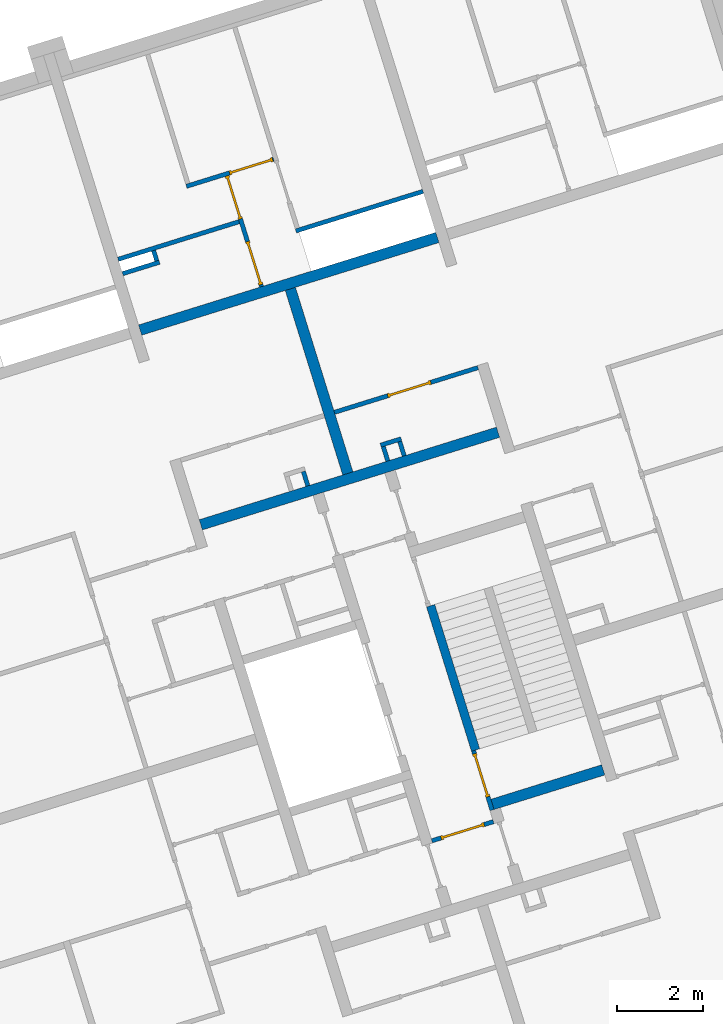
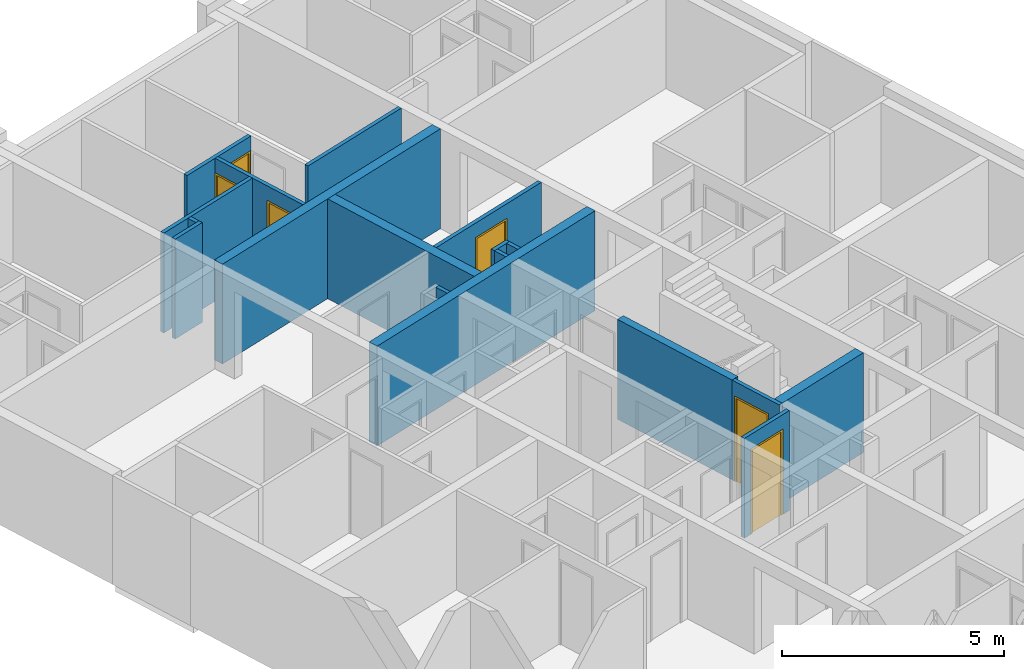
# One storey, part 7 of 12: 18 walls, 6 doors, 8 openings.
"""IFC4 building model written with IfcOpenShell, lengths in metres."""

from ifc_helpers import new_model, entity, si_unit, converted_unit, direction, frame, origin, place, context, subcontext, project, spatial, indexed_curve, outline, extrude, polygons, source, transform, mapped, material, constituent, constituent_set, type_object, type_shapes, element, fill, save


model = new_model("IFC4")

# Units and contexts
model_context = context("Model", 3, precision=1e-05, world=origin(), true_north=direction((6.12323399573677e-17, 1.0)))
body_context = subcontext(model_context, "Body", "Model", "MODEL_VIEW")
ifc_project = project(units=[si_unit("LENGTHUNIT", "METRE"), si_unit("AREAUNIT", "SQUARE_METRE"), si_unit("VOLUMEUNIT", "CUBIC_METRE"), converted_unit("PLANEANGLEUNIT", "DEGREE", entity("IfcPlaneAngleMeasure", 0.0174532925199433), si_unit("PLANEANGLEUNIT", "RADIAN"), dimensions=[0, 0, 0, 0, 0, 0, 0])], contexts=[model_context])

# Site, building, storey
site_placement = place(None, frame((13.1347999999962, 11.9886000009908, 0.0), z_axis=(0.0, 0.0, 1.0), x_axis=(0.954770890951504, 0.297342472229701, 0.0)))
site = spatial("IfcSite", under=ifc_project, at=site_placement, Name="Schiehaven", CompositionType="ELEMENT")
building_placement = place(site_placement, origin())
building = spatial("IfcBuilding", under=site, at=building_placement, Name="VORM huis", CompositionType="ELEMENT")
storey_placement = place(building_placement, frame((0.0, 0.0, 3.9)))
storey = spatial("IfcBuildingStorey", under=building, at=storey_placement, Name="01 eerste verdieping", CompositionType="ELEMENT", Elevation=3.9)

# Walls
ifc_material_1 = material(Name="beton_gewapend_ihw", Category="Miscellaneous")
wall_type_1 = type_object("IfcWallType", Name="Basic Wall:28_WA_skelet_wand 250mm_gen", PredefinedType="STANDARD")
wall_1_placement = place(storey_placement, frame((12.6250000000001, 22.2, 0.0)))
element("IfcWall", 1, at=wall_1_placement, inside=storey, type_object=wall_type_1, material=ifc_material_1, Name="Constructieve wand", ObjectType="Wand", PredefinedType="NOTDEFINED", context=body_context, shape_type="SweptSolid", body=[
    extrude(outline(indexed_curve([(7.25000000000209, 0.125000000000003), (-4.73312500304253e-16, 0.125000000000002), (4.73312500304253e-16, -0.125000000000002), (7.25000000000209, -0.125), (7.25000000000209, 0.125000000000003)], self_intersect=False)), origin(), (0.0, 0.0, 1.0), 2.75),
])
ifc_material_2 = material(Name="beton_gewapend_prefab-element", Category="Miscellaneous")
wall_type_2 = type_object("IfcWallType", Name="Basic Wall:28_WA_skelet_wand 200mm_gen", PredefinedType="STANDARD")
wall_2_placement = place(storey_placement, frame((17.1750000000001, 15.29, 0.0), z_axis=(0.0, 0.0, 1.0), x_axis=(0.0, 1.0, 0.0)))
element("IfcWall", 2, at=wall_2_placement, inside=storey, type_object=wall_type_2, material=ifc_material_2, Name="Constructieve wand", ObjectType="Wand", PredefinedType="NOTDEFINED", context=body_context, shape_type="SweptSolid", body=[
    extrude(outline(indexed_curve([(3.52, 0.0999999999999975), (-5.13023966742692e-16, 0.0999999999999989), (5.13023966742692e-16, -0.0999999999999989), (3.52, -0.1), (3.52, 0.0999999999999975)], self_intersect=False)), origin(), (0.0, 0.0, 1.0), 2.75),
])
ifc_material_3 = material(Name="ntb_ntb_ntb", Category="Miscellaneous")
wall_type_3 = type_object("IfcWallType", Name="Basic Wall:22_WA_afbouw_binnenwand 250mm_gen", PredefinedType="STANDARD")
wall_3_placement = place(storey_placement, frame((16.2500000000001, 22.325, 0.0), z_axis=(0.0, 0.0, 1.0), x_axis=(0.0, 1.0, 0.0)))
element("IfcWall", 3, at=wall_3_placement, inside=storey, type_object=wall_type_3, material=ifc_material_3, Name="Binnenwand", ObjectType="Wand", PredefinedType="NOTDEFINED", context=body_context, shape_type="SweptSolid", body=[
    extrude(outline(indexed_curve([(4.49999999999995, 0.124999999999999), (-8.33495326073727e-16, 0.125), (8.33495326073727e-16, -0.125), (4.49999999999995, -0.125), (4.49999999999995, 0.124999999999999)], self_intersect=False)), origin(), (0.0, 0.0, 1.0), 2.75),
])
wall_4_placement = place(storey_placement, frame((19.8750000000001, 13.965, 0.0), z_axis=(0.0, 0.0, 1.0), x_axis=(-1.0, 0.0, 0.0)))
element("IfcWall", 4, at=wall_4_placement, inside=storey, type_object=wall_type_3, material=ifc_material_3, Name="Binnenwand", ObjectType="Wand", PredefinedType="NOTDEFINED", context=body_context, shape_type="SweptSolid", body=[
    extrude(outline(indexed_curve([(2.70000000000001, 0.124999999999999), (-3.69797181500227e-16, 0.125), (3.69797181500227e-16, -0.125), (2.70000000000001, -0.125), (2.70000000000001, 0.124999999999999)], self_intersect=False)), origin(), (0.0, 0.0, 1.0), 2.75),
])
wall_5_placement = place(storey_placement, frame((12.6250000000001, 26.95, 0.0)))
element("IfcWall", 5, at=wall_5_placement, inside=storey, type_object=wall_type_3, material=ifc_material_3, Name="Binnenwand", ObjectType="Wand", PredefinedType="NOTDEFINED", context=body_context, shape_type="SweptSolid", body=[
    extrude(outline(indexed_curve([(7.24999999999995, 0.124999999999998), (-7.57222733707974e-16, 0.125000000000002), (7.57222733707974e-16, -0.125000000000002), (7.24999999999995, -0.125000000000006), (7.24999999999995, 0.124999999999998)], self_intersect=False)), origin(), (0.0, 0.0, 1.0), 2.75),
])

# Wall, opening, door
wall_type_4 = type_object("IfcWallType", Name="Basic Wall:22_WA_afbouw_binnenwand 100mm_gen", PredefinedType="STANDARD")
wall_6_placement = place(storey_placement, frame((17.1250000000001, 13.84, 0.0), z_axis=(0.0, 0.0, 1.0), x_axis=(0.0, 1.0, 0.0)))
wall_6 = element("IfcWall", 6, at=wall_6_placement, inside=storey, type_object=wall_type_4, material=ifc_material_3, Name="Binnenwand", ObjectType="Wand", PredefinedType="NOTDEFINED", context=body_context, shape_type="Tessellation", body=[
    polygons([(1.44999999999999, -0.0500000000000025, -5.41433564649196e-16), (1.44999999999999, -0.0500000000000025, 2.75), (0.249999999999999, -0.0500000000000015, 2.75), (0.0, -0.0500000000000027, 2.75), (0.0, -0.0500000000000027, -5.41433564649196e-16), (0.249999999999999, -0.0500000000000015, 0.0), (0.324999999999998, -0.0500000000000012, -5.41433564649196e-16), (0.324999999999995, -0.0500000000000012, 2.34999999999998), (1.375, -0.0500000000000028, 2.34999999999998), (1.375, -0.0500000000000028, -5.41433564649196e-16), (1.44999999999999, 0.0499999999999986, 2.75), (1.44999999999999, 0.0499999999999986, -5.41433564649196e-16), (1.37499999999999, 0.0499999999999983, -5.41433564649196e-16), (1.37499999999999, 0.0500000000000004, 2.34999999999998), (0.324999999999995, 0.0500000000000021, 2.34999999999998), (0.324999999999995, 0.0499999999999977, -5.41433564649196e-16), (-2.16573425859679e-15, 0.0500000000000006, -5.41433564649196e-16), (-2.16573425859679e-15, 0.0500000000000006, 2.75)], [[[1, 2, 3, 4, 5, 6, 7, 8, 9, 10]], [[11, 12, 13, 14, 15, 16, 17, 18]], [[5, 17, 16, 7, 6]], [[2, 1, 12, 11]], [[4, 3, 2, 11, 18]], [[15, 8, 7, 16]], [[9, 14, 13, 10]], [[8, 15, 14, 9]], [[5, 4, 18, 17]], [[12, 1, 10, 13]]], closed=True),
])
opening_1_placement = place(wall_6_placement, frame((1.375, 0.0499999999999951, 0.0)))
opening_1 = element("IfcOpeningElement", 7, at=opening_1_placement, cuts=wall_6, Name="Vluchtdeur", PredefinedType="OPENING", context=body_context, shape_type="SweptSolid", body=[
    extrude(outline(indexed_curve([(2.34999999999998, 1.05), (0.0, 1.05), (0.0, 1.35358391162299e-15), (2.34999999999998, 1.35358391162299e-15), (2.34999999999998, 1.05)], self_intersect=False)), frame((0.0, 0.0, 0.0), z_axis=(0.0, -1.0, 0.0), x_axis=(0.0, 0.0, 1.0)), (0.0, 0.0, 1.0), 0.1),
])
ifc_material_4 = material(Name="PD_a_binnenwandopeningen", Category="Miscellaneous")
ifc_constituent_1 = constituent(ifc_material_4, Name="PD_a_binnenwandopeningen", Category="Miscellaneous")
ifc_material_5 = material(Name="metaal_aluminium_ntb", Category="Miscellaneous")
ifc_constituent_2 = constituent(ifc_material_5, Name="metaal_aluminium_ntb", Category="Miscellaneous")
ifc_constituent_set_1 = constituent_set(constituents=[ifc_constituent_1, ifc_constituent_2])
door_type_1 = type_object("IfcDoorType", Name="32_DO_binnendeur enkel:binnendeur zelfsluitend 30min", OperationType="NOTDEFINED", PredefinedType="DOOR")
shared_shape_1 = source(origin(), body_context, "Body", "SweptSolid", [
    extrude(outline(indexed_curve([(-1.16249999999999, -0.525000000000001), (1.18749999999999, -0.525), (1.18749999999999, 0.525), (-1.16249999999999, 0.525), (-1.16249999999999, 0.475), (1.13749999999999, 0.475), (1.13749999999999, -0.475), (-1.16249999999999, -0.475), (-1.16249999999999, -0.525000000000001)], self_intersect=False)), frame((0.525000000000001, 0.0, 1.16249999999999), z_axis=(0.0, 1.0, 0.0), x_axis=(0.0, 0.0, 1.0)), (0.0, 0.0, 1.0), 0.1),
    extrude(outline(indexed_curve([(-0.025, -0.475), (0.025, -0.475), (0.025, 0.475), (-0.025, 0.475), (-0.025, -0.475)], self_intersect=False)), frame((0.525000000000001, 0.0499999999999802, 0.0), z_axis=(0.0, 0.0, 1.0), x_axis=(0.0, 1.0, 0.0)), (0.0, 0.0, 1.0), 2.29999999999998),
])
type_shapes(door_type_1, [shared_shape_1])
door_1_placement = place(opening_1_placement, frame((0.0, 0.0, 0.0), z_axis=(0.0, 0.0, 1.0), x_axis=(-1.0, 0.0, 0.0)))
door_1 = element("IfcDoor", 8, at=door_1_placement, inside=storey, type_object=door_type_1, material=ifc_constituent_set_1, Name="Vluchtdeur", ObjectType="Deur", OperationType="NOTDEFINED", OverallHeight=2.34999999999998, OverallWidth=1.05, PredefinedType="DOOR", context=body_context, shape_type="MappedRepresentation", body=[
    mapped(shared_shape_1, transform((0.0, 0.0, 0.0), scale=1.0)),
])
fill(opening_1, door_1)

wall_7_placement = place(storey_placement, frame((17.0750000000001, 13.575, 0.0), z_axis=(0.0, 0.0, 1.0), x_axis=(-1.0, 0.0, 0.0)))
wall_7 = element("IfcWall", 9, at=wall_7_placement, inside=storey, type_object=wall_type_4, material=ifc_material_3, Name="Binnenwand", ObjectType="Wand", PredefinedType="NOTDEFINED", context=body_context, shape_type="Tessellation", body=[
    polygons([(1.50000000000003, -0.0499999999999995, 2.75), (-1.35141276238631e-15, -0.0499999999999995, 2.75), (-1.35141276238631e-15, -0.0499999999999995, -5.41433564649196e-16), (0.224999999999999, -0.0499999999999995, -5.41433564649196e-16), (0.224999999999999, -0.0499999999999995, 2.34999999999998), (1.275, -0.0499999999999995, 2.34999999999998), (1.275, -0.0499999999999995, -5.41433564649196e-16), (1.50000000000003, -0.0499999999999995, -5.41433564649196e-16), (-2.16804959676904e-15, 0.0500000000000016, 2.75), (1.50000000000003, 0.0499999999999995, 2.75), (1.50000000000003, 0.0499999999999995, 2.34999999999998), (1.50000000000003, 0.0499999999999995, -5.41433564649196e-16), (1.275, 0.0499999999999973, -5.41433564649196e-16), (1.275, 0.0499999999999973, 2.34999999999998), (0.224999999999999, 0.0500000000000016, 2.34999999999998), (0.224999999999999, 0.0500000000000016, -5.41433564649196e-16), (-2.16804959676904e-15, 0.0500000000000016, -5.41433564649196e-16), (-2.31533817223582e-18, 0.0499999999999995, 2.34999999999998)], [[[1, 2, 3, 4, 5, 6, 7, 8]], [[9, 10, 11, 12, 13, 14, 15, 16, 17, 18]], [[3, 17, 16, 4]], [[2, 1, 10, 9]], [[15, 5, 4, 16]], [[5, 15, 14, 6]], [[6, 14, 13, 7]], [[3, 2, 9, 18, 17]], [[1, 8, 12, 11, 10]], [[12, 8, 7, 13]]], closed=True),
])
opening_2_placement = place(wall_7_placement, frame((1.275, 0.0499999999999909, 0.0)))
opening_2 = element("IfcOpeningElement", 10, at=opening_2_placement, cuts=wall_7, Name="Vluchtdeur", PredefinedType="OPENING", context=body_context, shape_type="SweptSolid", body=[
    extrude(outline(indexed_curve([(2.34999999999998, 1.35358391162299e-15), (2.34999999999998, 1.05), (0.0, 1.05), (0.0, 1.35358391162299e-15), (2.34999999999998, 1.35358391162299e-15)], self_intersect=False)), frame((0.0, 0.0, 0.0), z_axis=(0.0, -1.0, 0.0), x_axis=(0.0, 0.0, 1.0)), (0.0, 0.0, 1.0), 0.1),
])
ifc_constituent_3 = constituent(ifc_material_4, Name="PD_a_binnenwandopeningen", Category="Miscellaneous")
ifc_constituent_4 = constituent(ifc_material_5, Name="metaal_aluminium_ntb", Category="Miscellaneous")
ifc_constituent_set_2 = constituent_set(constituents=[ifc_constituent_3, ifc_constituent_4])
shared_shape_2 = source(origin(), body_context, "Body", "SweptSolid", [
    extrude(outline(indexed_curve([(0.475, -1.16249999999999), (0.525, -1.16249999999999), (0.525, 1.18749999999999), (-0.525, 1.18749999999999), (-0.525, -1.16249999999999), (-0.475, -1.16249999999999), (-0.475, 1.13749999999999), (0.475, 1.13749999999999), (0.475, -1.16249999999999)], self_intersect=False)), frame((0.525000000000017, 0.100000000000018, 1.16249999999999), z_axis=(0.0, -1.0, 0.0), x_axis=(1.0, 0.0, 0.0)), (0.0, 0.0, 1.0), 0.1),
    extrude(outline(indexed_curve([(-0.475, -0.025), (0.475, -0.025), (0.475, 0.025), (-0.475, 0.025), (-0.475, -0.025)], self_intersect=False)), frame((0.525000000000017, 0.0499999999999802, 0.0)), (0.0, 0.0, 1.0), 2.29999999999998),
])
door_2_placement = place(opening_2_placement, frame((0.0, 0.0, 0.0), z_axis=(0.0, 0.0, 1.0), x_axis=(-1.0, 0.0, 0.0)))
door_2 = element("IfcDoor", 11, at=door_2_placement, inside=storey, type_object=door_type_1, material=ifc_constituent_set_2, Name="Vluchtdeur", ObjectType="Deur", OperationType="NOTDEFINED", OverallHeight=2.34999999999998, OverallWidth=1.05, PredefinedType="DOOR", context=body_context, shape_type="MappedRepresentation", body=[
    mapped(shared_shape_2, transform((0.0, 0.0, 0.0), scale=1.0)),
])
fill(opening_2, door_2)

# Wall, openings, door
wall_8_placement = place(storey_placement, frame((16.7750000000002, 29.825, 0.0), z_axis=(0.0, 0.0, 1.0), x_axis=(-1.0, 0.0, 0.0)))
wall_8 = element("IfcWall", 12, at=wall_8_placement, inside=storey, type_object=wall_type_4, material=ifc_material_3, Name="Binnenwand", ObjectType="Wand", PredefinedType="NOTDEFINED", context=body_context, shape_type="Tessellation", body=[
    polygons([(2.12499999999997, -0.0500000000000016, 2.75), (2.02499999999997, -0.0499999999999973, 2.75), (-3.59716006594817e-15, -0.0499999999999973, 2.75), (-3.59716006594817e-15, -0.0499999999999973, 0.0), (0.0250000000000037, -0.0499999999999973, 0.0), (0.0250000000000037, -0.0499999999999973, 2.34999999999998), (1.075, -0.049999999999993, 2.34999999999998), (1.075, -0.049999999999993, 0.0), (2.02499999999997, -0.0499999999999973, 5.41433564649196e-16), (2.12499999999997, -0.0500000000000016, 0.0), (-1.39582481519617e-15, 0.0499999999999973, 2.75), (1.09999999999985, 0.0500000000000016, 2.75), (1.19999999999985, 0.0500000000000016, 2.75), (2.12499999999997, 0.0499999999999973, 2.75), (2.12499999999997, 0.0499999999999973, 0.0), (1.075, 0.0500000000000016, 0.0), (1.075, 0.0500000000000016, 2.34999999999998), (0.0250000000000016, 0.050000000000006, 2.34999999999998), (0.0250000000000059, 0.0499999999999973, 0.0), (-1.39582481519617e-15, 0.0499999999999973, 0.0), (-1.39582481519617e-15, 0.0500000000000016, 2.34999999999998)], [[[1, 2, 3, 4, 5, 6, 7, 8, 9, 10]], [[11, 12, 13, 14, 15, 16, 17, 18, 19, 20, 21]], [[4, 20, 19, 5]], [[3, 2, 1, 14, 13, 12, 11]], [[4, 3, 11, 21, 20]], [[18, 6, 5, 19]], [[7, 17, 16, 8]], [[6, 18, 17, 7]], [[1, 10, 15, 14]], [[15, 10, 9, 8, 16]]], closed=True),
])
opening_3_placement = place(wall_8_placement, origin())
element("IfcOpeningElement", 13, at=opening_3_placement, cuts=wall_8, Name="Binnendeur", PredefinedType="OPENING", context=body_context, shape_type="SweptSolid", body=[
    extrude(outline(indexed_curve([(-0.0499999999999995, -1.17499999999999), (0.0500000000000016, -1.17499999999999), (0.0500000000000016, 1.17499999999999), (-0.0499999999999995, 1.17499999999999), (-0.0499999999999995, -1.17499999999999)], self_intersect=False)), frame((1.14999999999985, 0.049999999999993, 1.17499999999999), z_axis=(0.0, 1.0, 0.0), x_axis=(-1.0, 0.0, 0.0)), (0.0, 0.0, 1.0), 1.05),
])
opening_4_placement = place(wall_8_placement, frame((0.0250000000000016, -0.050000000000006, 0.0)))
opening_4 = element("IfcOpeningElement", 14, at=opening_4_placement, cuts=wall_8, Name="Binnendeur", PredefinedType="OPENING", context=body_context, shape_type="SweptSolid", body=[
    extrude(outline(indexed_curve([(2.34999999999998, 1.35358391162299e-15), (2.34999999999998, 1.05), (0.0, 1.05), (0.0, 1.35358391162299e-15), (2.34999999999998, 1.35358391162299e-15)], self_intersect=False)), frame((0.0, 0.0, 0.0), z_axis=(0.0, 1.0, 0.0), x_axis=(0.0, 0.0, 1.0)), (0.0, 0.0, 1.0), 0.1),
])
ifc_constituent_5 = constituent(ifc_material_4, Name="PD_a_binnenwandopeningen", Category="Miscellaneous")
ifc_constituent_6 = constituent(ifc_material_5, Name="metaal_aluminium_ntb", Category="Miscellaneous")
ifc_constituent_set_3 = constituent_set(constituents=[ifc_constituent_5, ifc_constituent_6])
door_type_2 = type_object("IfcDoorType", Name="32_DO_binnendeur enkel:binnendeur", OperationType="REVOLVING", PredefinedType="DOOR")
shared_shape_3 = source(origin(), body_context, "Body", "SweptSolid", [
    extrude(outline(indexed_curve([(0.475, -1.16249999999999), (0.525, -1.16249999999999), (0.525, 1.18749999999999), (-0.525, 1.18749999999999), (-0.525, -1.16249999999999), (-0.475, -1.16249999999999), (-0.475, 1.13749999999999), (0.475, 1.13749999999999), (0.475, -1.16249999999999)], self_intersect=False)), frame((0.525000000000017, 0.100000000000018, 1.16249999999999), z_axis=(0.0, -1.0, 0.0), x_axis=(1.0, 0.0, 0.0)), (0.0, 0.0, 1.0), 0.1),
    extrude(outline(indexed_curve([(-0.475, -0.025), (0.475, -0.025), (0.475, 0.025), (-0.475, 0.025), (-0.475, -0.025)], self_intersect=False)), frame((0.525000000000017, 0.0499999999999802, 0.0)), (0.0, 0.0, 1.0), 2.29999999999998),
])
door_3_placement = place(opening_4_placement, origin())
door_3 = element("IfcDoor", 15, at=door_3_placement, inside=storey, type_object=door_type_2, material=ifc_constituent_set_3, Name="Binnendeur", ObjectType="Deur", OperationType="REVOLVING", OverallHeight=2.34999999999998, OverallWidth=1.05, PredefinedType="DOOR", context=body_context, shape_type="MappedRepresentation", body=[
    mapped(shared_shape_3, transform((0.0, 0.0, 0.0), scale=1.0)),
])
fill(opening_4, door_3)

# Wall
wall_9_placement = place(storey_placement, frame((16.7750000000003, 28.075, 0.0)))
element("IfcWall", 16, at=wall_9_placement, inside=storey, type_object=wall_type_4, material=ifc_material_3, Name="Binnenwand", ObjectType="Wand", PredefinedType="NOTDEFINED", context=body_context, shape_type="SweptSolid", body=[
    extrude(outline(indexed_curve([(3.1000000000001, 0.0500000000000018), (-9.11813735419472e-16, 0.0500000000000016), (9.11813735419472e-16, -0.0500000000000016), (3.1000000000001, -0.0500000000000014), (3.1000000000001, 0.0500000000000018)], self_intersect=False)), origin(), (0.0, 0.0, 1.0), 2.75),
])

# Wall, openings, doors
wall_10_placement = place(storey_placement, frame((15.6250000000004, 29.7749999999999, 0.0), z_axis=(0.0, 0.0, 1.0), x_axis=(0.0, -1.0, 0.0)))
wall_10 = element("IfcWall", 17, at=wall_10_placement, inside=storey, type_object=wall_type_4, material=ifc_material_3, Name="Binnenwand", ObjectType="Wand", PredefinedType="NOTDEFINED", context=body_context, shape_type="Tessellation", body=[
    polygons([(2.69999999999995, -0.0500000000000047, 2.75), (1.15000000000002, -0.050000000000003, 2.75), (1.05000000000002, -0.0500000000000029, 2.75), (4.33146851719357e-15, -0.0500000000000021, 2.75), (4.33146851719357e-15, -0.0500000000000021, 2.34999999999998), (1.05, -0.0500000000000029, 2.34999999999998), (1.05, -0.0500000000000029, 0.0), (1.15000000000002, -0.050000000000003, 5.41433564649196e-16), (1.59999999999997, -0.0500000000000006, 0.0), (1.59999999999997, -0.0500000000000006, 2.34999999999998), (2.64999999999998, -0.0500000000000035, 2.34999999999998), (2.64999999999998, -0.0500000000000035, 0.0), (2.69999999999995, -0.0500000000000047, 0.0), (4.33146851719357e-15, 0.049999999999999, 2.75), (2.69999999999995, 0.0499999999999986, 2.75), (2.69999999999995, 0.0499999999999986, 0.0), (2.64999999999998, 0.0499999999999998, 0.0), (2.64999999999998, 0.0499999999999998, 2.34999999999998), (1.59999999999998, 0.0499999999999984, 2.34999999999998), (1.59999999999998, 0.0499999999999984, 0.0), (1.05000000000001, 0.0499999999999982, 0.0), (1.05, 0.0499999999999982, 2.34999999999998), (4.33146851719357e-15, 0.049999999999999, 2.34999999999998)], [[[1, 2, 3, 4, 5, 6, 7, 8, 9, 10, 11, 12, 13]], [[14, 15, 16, 17, 18, 19, 20, 21, 22, 23]], [[12, 17, 16, 13]], [[4, 3, 2, 1, 15, 14]], [[19, 18, 11, 10]], [[18, 17, 12, 11]], [[20, 19, 10, 9]], [[4, 14, 23, 5]], [[6, 22, 21, 7]], [[22, 6, 5, 23]], [[1, 13, 16, 15]], [[20, 9, 8, 7, 21]]], closed=True),
])
opening_5_placement = place(wall_10_placement, frame((1.59999999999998, -0.0499999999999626, 0.0)))
opening_5 = element("IfcOpeningElement", 18, at=opening_5_placement, cuts=wall_10, Name="Binnendeur", PredefinedType="OPENING", context=body_context, shape_type="SweptSolid", body=[
    extrude(outline(indexed_curve([(2.34999999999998, 0.0), (2.34999999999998, 1.05), (0.0, 1.05), (0.0, 0.0), (2.34999999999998, 0.0)], self_intersect=False)), frame((0.0, 0.0, 0.0), z_axis=(0.0, 1.0, 0.0), x_axis=(0.0, 0.0, 1.0)), (0.0, 0.0, 1.0), 0.1),
])
opening_6_placement = place(wall_10_placement, frame((29.7749999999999, -15.6250000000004, 0.0), z_axis=(0.0, 0.0, 1.0), x_axis=(0.0, 1.0, 0.0)))
element("IfcOpeningElement", 19, at=opening_6_placement, cuts=wall_10, Name="Binnendeur", PredefinedType="OPENING", context=body_context, shape_type="SweptSolid", body=[
    extrude(outline(indexed_curve([(-0.525000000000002, -1.17499999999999), (0.525000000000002, -1.17499999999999), (0.524999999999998, 1.17499999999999), (-0.525000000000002, 1.17499999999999), (-0.525000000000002, -1.17499999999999)], self_intersect=False)), frame((14.0510000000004, 27.6499999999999, 1.17499999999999), z_axis=(1.0, 0.0, 0.0), x_axis=(0.0, -1.0, 0.0)), (0.0, 0.0, 1.0), 3.048),
])
opening_7_placement = place(wall_10_placement, frame((0.0, -0.0499999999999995, 0.0)))
opening_7 = element("IfcOpeningElement", 20, at=opening_7_placement, cuts=wall_10, Name="Binnendeur", PredefinedType="OPENING", context=body_context, shape_type="SweptSolid", body=[
    extrude(outline(indexed_curve([(2.34999999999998, 0.0), (2.34999999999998, 1.05), (0.0, 1.05), (0.0, 0.0), (2.34999999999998, 0.0)], self_intersect=False)), frame((0.0, 0.0, 0.0), z_axis=(0.0, 1.0, 0.0), x_axis=(0.0, 0.0, 1.0)), (0.0, 0.0, 1.0), 0.1),
])
ifc_constituent_7 = constituent(ifc_material_4, Name="PD_a_binnenwandopeningen", Category="Miscellaneous")
ifc_constituent_8 = constituent(ifc_material_5, Name="metaal_aluminium_ntb", Category="Miscellaneous")
ifc_constituent_set_4 = constituent_set(constituents=[ifc_constituent_7, ifc_constituent_8])
door_4_placement = place(opening_5_placement, origin())
door_4 = element("IfcDoor", 21, at=door_4_placement, inside=storey, type_object=door_type_2, material=ifc_constituent_set_4, Name="Binnendeur", ObjectType="Deur", OperationType="REVOLVING", OverallHeight=2.34999999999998, OverallWidth=1.05, PredefinedType="DOOR", context=body_context, shape_type="MappedRepresentation", body=[
    mapped(shared_shape_3, transform((0.0, 0.0, 0.0), scale=1.0)),
])
fill(opening_5, door_4)
ifc_constituent_9 = constituent(ifc_material_4, Name="PD_a_binnenwandopeningen", Category="Miscellaneous")
ifc_constituent_10 = constituent(ifc_material_5, Name="metaal_aluminium_ntb", Category="Miscellaneous")
ifc_constituent_set_5 = constituent_set(constituents=[ifc_constituent_9, ifc_constituent_10])
door_5_placement = place(opening_7_placement, origin())
door_5 = element("IfcDoor", 22, at=door_5_placement, inside=storey, type_object=door_type_2, material=ifc_constituent_set_5, Name="Binnendeur", ObjectType="Deur", OperationType="REVOLVING", OverallHeight=2.34999999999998, OverallWidth=1.05, PredefinedType="DOOR", context=body_context, shape_type="MappedRepresentation", body=[
    mapped(shared_shape_3, transform((0.0, 0.0, 0.0), scale=1.0)),
])
fill(opening_7, door_5)

# Walls
wall_11_placement = place(storey_placement, frame((15.5750000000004, 28.6749999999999, 0.0), z_axis=(0.0, 0.0, 1.0), x_axis=(-1.0, 0.0, 0.0)))
element("IfcWall", 23, at=wall_11_placement, inside=storey, type_object=wall_type_4, material=ifc_material_3, Name="Binnenwand", ObjectType="Wand", PredefinedType="NOTDEFINED", context=body_context, shape_type="SweptSolid", body=[
    extrude(outline(indexed_curve([(2.95000000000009, 0.0500000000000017), (-3.2308008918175e-15, 0.0500000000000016), (-1.10066762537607e-15, -0.0500000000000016), (2.95000000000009, -0.0500000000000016), (2.95000000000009, 0.0500000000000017)], self_intersect=False)), origin(), (0.0, 0.0, 1.0), 2.75),
])
wall_12_placement = place(storey_placement, frame((12.6250000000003, 28.3249999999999, 0.0)))
element("IfcWall", 24, at=wall_12_placement, inside=storey, type_object=wall_type_4, material=ifc_material_3, Name="Binnenwand", ObjectType="Wand", PredefinedType="NOTDEFINED", context=body_context, shape_type="SweptSolid", body=[
    extrude(outline(indexed_curve([(0.899999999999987, 0.0500000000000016), (-9.62371003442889e-16, 0.0500000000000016), (9.62371003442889e-16, -0.0500000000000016), (0.899999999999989, -0.0500000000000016), (0.899999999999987, 0.0500000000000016)], self_intersect=False)), origin(), (0.0, 0.0, 1.0), 2.75),
])
wall_13_placement = place(storey_placement, frame((13.4750000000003, 28.3749999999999, 0.0), z_axis=(0.0, 0.0, 1.0), x_axis=(0.0, 1.0, 0.0)))
element("IfcWall", 25, at=wall_13_placement, inside=storey, type_object=wall_type_4, material=ifc_material_3, Name="Binnenwand", ObjectType="Wand", PredefinedType="NOTDEFINED", context=body_context, shape_type="SweptSolid", body=[
    extrude(outline(indexed_curve([(0.250000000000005, 0.0500000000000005), (1.10066762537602e-15, 0.0499999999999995), (-1.10066762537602e-15, -0.0499999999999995), (0.250000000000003, -0.0499999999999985), (0.250000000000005, 0.0500000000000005)], self_intersect=False)), origin(), (0.0, 0.0, 1.0), 2.75),
])

# Wall, opening, door
wall_14_placement = place(storey_placement, frame((16.3750000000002, 23.775, 0.0)))
wall_14 = element("IfcWall", 26, at=wall_14_placement, inside=storey, type_object=wall_type_4, material=ifc_material_3, Name="Binnenwand", ObjectType="Wand", PredefinedType="NOTDEFINED", context=body_context, shape_type="Tessellation", body=[
    polygons([(3.50000000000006, -0.0499999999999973, -5.41433564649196e-16), (3.50000000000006, -0.0499999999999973, 2.75), (-5.94289439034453e-16, -0.0499999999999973, 2.75), (-5.94289439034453e-16, -0.0499999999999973, -5.41433564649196e-16), (1.29999999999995, -0.0499999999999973, -5.41433564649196e-16), (1.29999999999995, -0.0499999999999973, 2.34999999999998), (2.34999999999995, -0.0499999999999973, 2.34999999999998), (2.34999999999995, -0.0499999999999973, -5.41433564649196e-16), (3.50000000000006, 0.0500000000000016, 2.75), (3.50000000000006, 0.0500000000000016, -5.41433564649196e-16), (2.34999999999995, 0.0500000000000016, -5.41433564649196e-16), (2.34999999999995, 0.0500000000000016, 2.34999999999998), (1.29999999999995, 0.0500000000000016, 2.34999999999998), (1.29999999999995, 0.0500000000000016, -5.41433564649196e-16), (-1.25404562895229e-15, 0.0500000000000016, -5.41433564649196e-16), (-1.25404562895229e-15, 0.0500000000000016, 2.75)], [[[1, 2, 3, 4, 5, 6, 7, 8]], [[9, 10, 11, 12, 13, 14, 15, 16]], [[4, 15, 14, 5]], [[2, 1, 10, 9]], [[3, 2, 9, 16]], [[4, 3, 16, 15]], [[7, 12, 11, 8]], [[13, 6, 5, 14]], [[12, 7, 6, 13]], [[10, 1, 8, 11]]], closed=True),
])
opening_8_placement = place(wall_14_placement, frame((1.29999999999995, -0.050000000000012, 0.0)))
opening_8 = element("IfcOpeningElement", 27, at=opening_8_placement, cuts=wall_14, Name="Binnendeur", PredefinedType="OPENING", context=body_context, shape_type="SweptSolid", body=[
    extrude(outline(indexed_curve([(2.34999999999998, 1.05), (0.0, 1.05), (0.0, 1.35358391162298e-15), (2.34999999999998, 1.35358391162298e-15), (2.34999999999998, 1.05)], self_intersect=False)), frame((0.0, 0.0, 0.0), z_axis=(0.0, 1.0, 0.0), x_axis=(0.0, 0.0, 1.0)), (0.0, 0.0, 1.0), 0.1),
])
ifc_constituent_11 = constituent(ifc_material_4, Name="PD_a_binnenwandopeningen", Category="Miscellaneous")
ifc_constituent_12 = constituent(ifc_material_5, Name="metaal_aluminium_ntb", Category="Miscellaneous")
ifc_constituent_set_6 = constituent_set(constituents=[ifc_constituent_11, ifc_constituent_12])
shared_shape_4 = source(origin(), body_context, "Body", "SweptSolid", [
    extrude(outline(indexed_curve([(-1.16249999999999, -0.525000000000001), (1.18749999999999, -0.525), (1.18749999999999, 0.525), (-1.16249999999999, 0.525), (-1.16249999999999, 0.475), (1.13749999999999, 0.475), (1.13749999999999, -0.475), (-1.16249999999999, -0.475), (-1.16249999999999, -0.525000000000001)], self_intersect=False)), frame((0.525000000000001, 0.0, 1.16249999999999), z_axis=(0.0, 1.0, 0.0), x_axis=(0.0, 0.0, 1.0)), (0.0, 0.0, 1.0), 0.1),
    extrude(outline(indexed_curve([(-0.025, -0.475), (0.025, -0.475), (0.025, 0.475), (-0.025, 0.475), (-0.025, -0.475)], self_intersect=False)), frame((0.525000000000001, 0.0499999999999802, 0.0), z_axis=(0.0, 0.0, 1.0), x_axis=(0.0, 1.0, 0.0)), (0.0, 0.0, 1.0), 2.29999999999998),
])
type_shapes(door_type_2, [shared_shape_4])
door_6_placement = place(opening_8_placement, origin())
door_6 = element("IfcDoor", 28, at=door_6_placement, inside=storey, type_object=door_type_2, material=ifc_constituent_set_6, Name="Binnendeur", ObjectType="Deur", OperationType="REVOLVING", OverallHeight=2.34999999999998, OverallWidth=1.05, PredefinedType="DOOR", context=body_context, shape_type="MappedRepresentation", body=[
    mapped(shared_shape_4, transform((0.0, 0.0, 0.0), scale=1.0)),
])
fill(opening_8, door_6)

# Walls
for number, where, z_axis, x_axis in (
    (29, (17.6250000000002, 22.325, 0.0), (0.0, 0.0, 1.0), (0.0, 1.0, 0.0)),
    (30, (17.2250000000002, 22.325, 0.0), (0.0, 0.0, 1.0), (0.0, 1.0, 0.0)),
):
    element("IfcWall", number, at=place(storey_placement, frame(where, z_axis=z_axis, x_axis=x_axis)), inside=storey, type_object=wall_type_4, material=ifc_material_3, Name="Binnenwand", ObjectType="Wand", PredefinedType="NOTDEFINED", context=body_context, shape_type="SweptSolid", body=[
        extrude(outline(indexed_curve([(0.350000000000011, 0.0499999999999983), (-1.4424372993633e-16, 0.0499999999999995), (1.4424372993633e-16, -0.0499999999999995), (0.350000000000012, -0.0500000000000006), (0.350000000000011, 0.0499999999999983)], self_intersect=False)), origin(), (0.0, 0.0, 1.0), 2.75),
    ])
wall_15_placement = place(storey_placement, frame((17.1750000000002, 22.725, 0.0)))
element("IfcWall", 31, at=wall_15_placement, inside=storey, type_object=wall_type_4, material=ifc_material_3, Name="Binnenwand", ObjectType="Wand", PredefinedType="NOTDEFINED", context=body_context, shape_type="SweptSolid", body=[
    extrude(outline(indexed_curve([(0.499999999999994, 0.0500000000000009), (-7.95802880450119e-16, 0.0500000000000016), (7.95802880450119e-16, -0.0500000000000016), (0.499999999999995, -0.0500000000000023), (0.499999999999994, 0.0500000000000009)], self_intersect=False)), origin(), (0.0, 0.0, 1.0), 2.75),
])
wall_16_placement = place(storey_placement, frame((15.2750000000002, 22.325, 0.0), z_axis=(0.0, 0.0, 1.0), x_axis=(0.0, 1.0, 0.0)))
element("IfcWall", 32, at=wall_16_placement, inside=storey, type_object=wall_type_4, material=ifc_material_3, Name="Binnenwand", ObjectType="Wand", PredefinedType="NOTDEFINED", context=body_context, shape_type="SweptSolid", body=[
    extrude(outline(indexed_curve([(0.350000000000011, 0.0499999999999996), (-3.23853597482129e-16, 0.0499999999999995), (3.23853597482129e-16, -0.0499999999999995), (0.350000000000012, -0.0499999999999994), (0.350000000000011, 0.0499999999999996)], self_intersect=False)), origin(), (0.0, 0.0, 1.0), 2.75),
])

save(model, "model.ifc")
